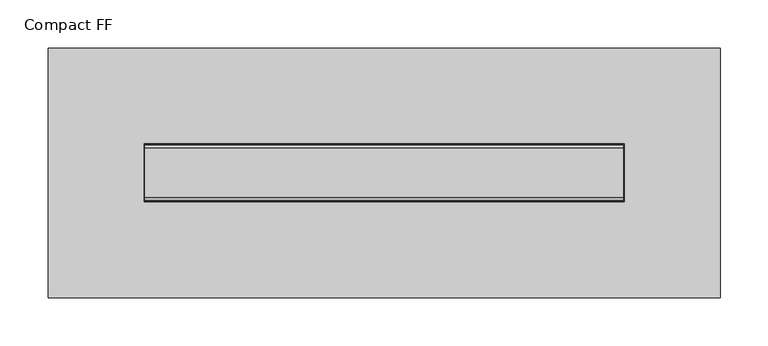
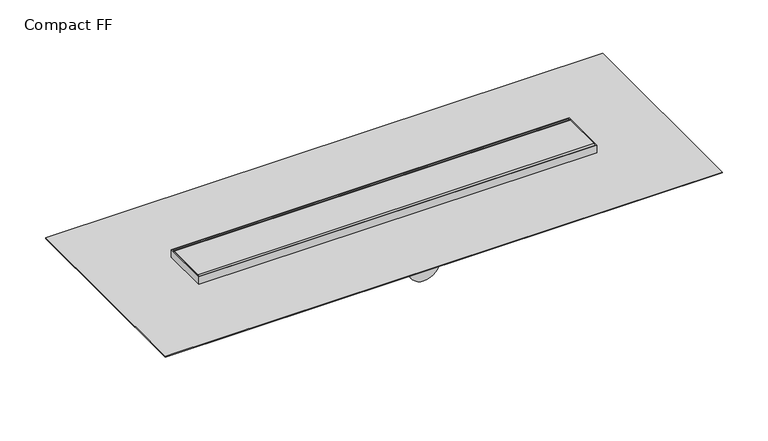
"""IFC4 building model written with IfcOpenShell, lengths in millimetres: sanitary terminal geometry, NLRS_PF_52_UN_Compact_Easydrain : Compact FF."""

from ifc_helpers import new_model, si_unit, point, frame, frame_2d, origin, place, context, project, spatial, polyline, circle_curve, trimmed, segment, composite_curve, outline, extrude, source, transform, mapped, element, save
from ifc_brep_helpers import plane_surface, cylinder_surface, advanced_brep


def compact_ff_9ca3e479(model_context):
    return source(origin(), model_context, "Body", "SolidModel", [
        extrude(outline(composite_curve([segment(polyline([(-25.5, 0.0), (25.5, 0.0)]), True, "CONTINUOUS"), segment(trimmed(circle_curve(frame_2d((25.5, -3.0)), 3.0), [point((25.5, 0.0))], [point((28.5, -3.0))], False, "CARTESIAN"), True, "CONTINUOUS"), segment(polyline([(28.5, -3.0), (28.5, -12.0), (-28.5, -12.0), (-28.5, -3.0)]), True, "CONTINUOUS"), segment(trimmed(circle_curve(frame_2d((-25.5, -3.0)), 3.0), [point((-28.5, -3.0))], [point((-25.5, 0.0))], False, "CARTESIAN"), True, "CONTINUOUS")], self_intersect=False)), frame((-249.0, 0.0, 0.0), z_axis=(1.0, 0.0, 0.0), x_axis=(0.0, 1.0, 0.0)), (0.0, 0.0, 1.0), 498.0),
        extrude(outline(composite_curve([segment(trimmed(circle_curve(frame_2d((190.0, 0.0)), 20.0), [point((210.0, 0.0))], [point((170.0, 0.0))], False, "CARTESIAN"), True, "CONTINUOUS"), segment(trimmed(circle_curve(frame_2d((190.0, 0.0)), 20.0), [point((170.0, 0.0))], [point((210.0, 0.0))], False, "CARTESIAN"), True, "CONTINUOUS")], self_intersect=False)), frame((0.0, 0.0, -61.0), z_axis=(0.0, 0.0, 1.0), x_axis=(1.0, 0.0, 0.0)), (0.0, 0.0, 1.0), 43.0),
        extrude(outline(composite_curve([segment(trimmed(circle_curve(frame_2d((-190.0, 0.0)), 20.0), [point((-210.0, 0.0))], [point((-170.0, 0.0))], False, "CARTESIAN"), True, "CONTINUOUS"), segment(trimmed(circle_curve(frame_2d((-190.0, 0.0)), 20.0), [point((-170.0, 0.0))], [point((-210.0, 0.0))], False, "CARTESIAN"), True, "CONTINUOUS")], self_intersect=False)), frame((0.0, 0.0, -61.0), z_axis=(0.0, 0.0, 1.0), x_axis=(1.0, 0.0, 0.0)), (0.0, 0.0, 1.0), 43.0),
        extrude(outline(polyline([(350.0, 130.0), (350.0, -130.0), (-350.0, -130.0), (-350.0, 130.0), (350.0, 130.0)]), holes=[polyline([(250.0, 30.0), (-250.0, 30.0), (-250.0, -30.0), (250.0, -30.0), (250.0, 30.0)])]), frame((0.0, 0.0, -11.0), z_axis=(0.0, 0.0, 1.0), x_axis=(1.0, 0.0, 0.0)), (0.0, 0.0, 1.0), 1.0),
        advanced_brep(
        [(-250.0, -30.0, -18.0), (-110.0, -30.0, -20.0), (-110.0, -30.0, -61.0), (110.0, -30.0, -61.0), (110.0, -30.0, -20.0), (250.0, -30.0, -18.0), (250.0, -30.0, 0.0), (-250.0, -30.0, 0.0), (0.0, -30.0, -18.0), (0.0, -30.0, -58.0), (-250.0, 30.0, -18.0), (-250.0, 30.0, 0.0), (250.0, 30.0, 0.0), (250.0, 30.0, -18.0), (110.0, 30.0, -20.0), (110.0, 30.0, -61.0), (-110.0, 30.0, -61.0), (-110.0, 30.0, -20.0), (-249.0, 29.0, 0.0), (249.0, 29.0, 0.0), (249.0, -29.0, 0.0), (-249.0, -29.0, 0.0), (0.0, -87.0466767, -18.0), (0.0, -87.0466767, -58.0), (249.0, 29.0, -12.0), (-249.0, 29.0, -12.0), (-249.0, -29.0, -12.0), (249.0, -29.0, -12.0)],
        [
            (0, 1),
            (1, 2),
            (2, 3),
            (3, 4),
            (4, 5),
            (5, 6),
            (6, 7),
            (7, 0),
            (8, 9, circle_curve(frame((0.0, -30.0, -38.0), z_axis=(0.0, 1.0, 0.0), x_axis=(0.0, 0.0, -1.0)), 20.0)),
            (9, 8, circle_curve(frame((0.0, -30.0, -38.0), z_axis=(0.0, 1.0, 0.0), x_axis=(0.0, 0.0, -1.0)), 20.0)),
            (10, 11),
            (11, 12),
            (12, 13),
            (13, 14),
            (14, 15),
            (15, 16),
            (16, 17),
            (17, 10),
            (0, 10),
            (17, 1),
            (5, 13),
            (12, 6),
            (11, 7),
            (18, 19),
            (19, 20),
            (20, 21),
            (21, 18),
            (16, 2),
            (15, 3),
            (14, 4),
            (22, 23, circle_curve(frame((0.0, -87.0466767, -38.0), z_axis=(0.0, -1.0, 0.0), x_axis=(0.0, 0.0, -1.0)), 20.0)),
            (23, 22, circle_curve(frame((0.0, -87.0466767, -38.0), z_axis=(0.0, -1.0, 0.0), x_axis=(0.0, 0.0, -1.0)), 20.0)),
            (23, 9),
            (8, 22),
            (24, 25),
            (25, 26),
            (26, 27),
            (27, 24),
            (24, 19),
            (18, 25),
            (21, 26),
            (20, 27),
        ],
        [
            plane_surface(frame((-250.0, -30.0, -18.0), z_axis=(0.0, -1.0, 0.0), x_axis=(0.99989797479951, 0.0, -0.014284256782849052))),
            plane_surface(frame((-250.0, 30.0, -18.0), z_axis=(0.0, 1.0, 0.0), x_axis=(-0.99989797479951, 0.0, 0.014284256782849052))),
            plane_surface(frame((-250.0, -30.0, -18.0), z_axis=(-0.014284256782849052, 0.0, -0.99989797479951), x_axis=(0.0, 1.0, 0.0))),
            plane_surface(frame((250.0, -30.0, -18.0), z_axis=(1.0, 0.0, 0.0), x_axis=(0.0, 1.0, 0.0))),
            plane_surface(frame((250.0, -30.0, 0.0), z_axis=(0.0, 0.0, 1.0), x_axis=(0.0, 1.0, 0.0))),
            plane_surface(frame((-250.0, -30.0, 0.0), z_axis=(-1.0, 0.0, 0.0), x_axis=(0.0, 1.0, 0.0))),
            plane_surface(frame((-110.0, -30.0, -20.0), z_axis=(-1.0, 0.0, 0.0), x_axis=(0.0, 1.0, 0.0))),
            plane_surface(frame((-110.0, -30.0, -61.0), z_axis=(0.0, 0.0, -1.0), x_axis=(0.0, 1.0, 0.0))),
            plane_surface(frame((110.0, -30.0, -61.0), z_axis=(1.0, 0.0, 0.0), x_axis=(0.0, 1.0, 0.0))),
            plane_surface(frame((110.0, -30.0, -20.0), z_axis=(0.01428425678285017, 0.0, -0.99989797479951), x_axis=(0.0, 1.0, 0.0))),
            plane_surface(frame((0.0, -87.0466767, -38.0), z_axis=(0.0, -1.0, 0.0), x_axis=(1.0, 0.0, 0.0))),
            cylinder_surface(frame((0.0, 0.0, -38.0), z_axis=(0.0, 1.0, 0.0), x_axis=(0.0, 0.0, -1.0)), 20.0),
            plane_surface(frame((-249.0, 29.0, -12.0), z_axis=(0.0, 0.0, 1.0), x_axis=(1.0, 0.0, 0.0))),
            plane_surface(frame((249.0, 29.0, 0.0), z_axis=(0.0, -1.0, 0.0), x_axis=(0.0, 0.0, -1.0))),
            plane_surface(frame((-249.0, 29.0, 0.0), z_axis=(1.0, 0.0, 0.0), x_axis=(0.0, 0.0, -1.0))),
            plane_surface(frame((-249.0, -29.0, 0.0), z_axis=(0.0, 1.0, 0.0), x_axis=(0.0, 0.0, -1.0))),
            plane_surface(frame((249.0, -29.0, 0.0), z_axis=(-1.0, 0.0, 0.0), x_axis=(0.0, 0.0, -1.0))),
        ],
        [
            (0, [[1, 2, 3, 4, 5, 6, 7, 8], [9, 10]]),
            (1, [[11, 12, 13, 14, 15, 16, 17, 18]]),
            (2, [[-1, 19, -18, 20]]),
            (3, [[-6, 21, -13, 22]]),
            (4, [[-7, -22, -12, 23], [24, 25, 26, 27]]),
            (5, [[-8, -23, -11, -19]]),
            (6, [[-2, -20, -17, 28]]),
            (7, [[-3, -28, -16, 29]]),
            (8, [[-4, -29, -15, 30]]),
            (9, [[-5, -30, -14, -21]]),
            (10, [[31, 32]]),
            (11, [[-32, 33, -9, 34]]),
            (11, [[-31, -34, -10, -33]]),
            (12, [[35, 36, 37, 38]]),
            (13, [[-35, 39, -24, 40]]),
            (14, [[-36, -40, -27, 41]]),
            (15, [[-37, -41, -26, 42]]),
            (16, [[-38, -42, -25, -39]]),
        ],
    ),
    ])


if __name__ == "__main__":
    model = new_model("IFC4")
    model_context = context("Model", 3, world=origin())
    ifc_project = project(units=[si_unit("LENGTHUNIT", "METRE", prefix="MILLI")], contexts=[model_context])
    site = spatial("IfcSite", under=ifc_project)
    building = spatial("IfcBuilding", under=site)
    placement = place(None, origin())
    compact_ff_shape = compact_ff_9ca3e479(model_context)
    element("IfcSanitaryTerminal", 1, ObjectType="NLRS_PF_52_UN_Compact_Easydrain : Compact FF", at=placement, inside=building, context=model_context, shape_type="MappedRepresentation", body=[
        mapped(compact_ff_shape, transform((0.0, 0.0, 0.0), x_axis=(1.0, 0.0, 0.0), y_axis=(0.0, 1.0, 0.0), z_axis=(0.0, 0.0, 1.0))),
    ])
    save(model, "model.ifc")
